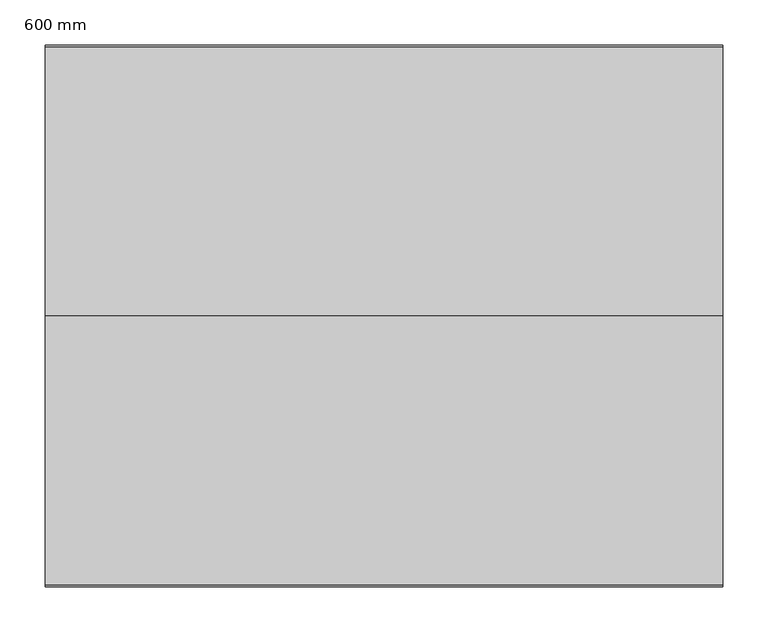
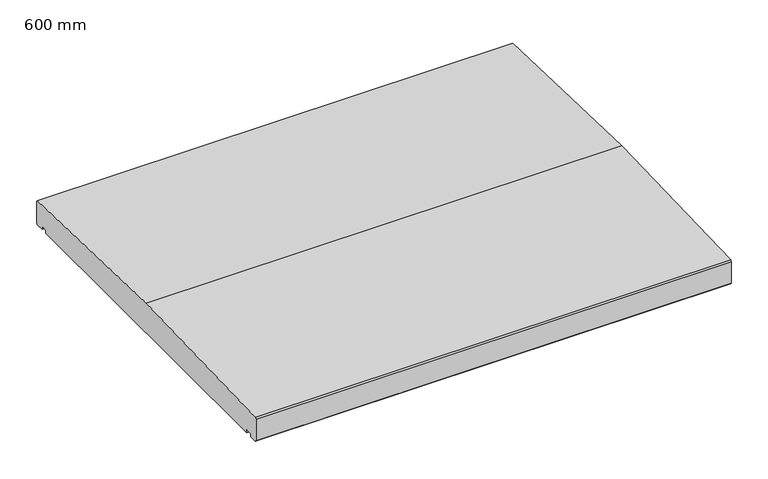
"""IFC4 building model written with IfcOpenShell, lengths in millimetres: proxy geometry, 400_35_NS_afdekker_tweezijdig_afwaterend : 600 mm."""

from ifc_helpers import new_model, si_unit, frame, origin, place, context, project, spatial, polyline, outline, extrude, source, transform, mapped, element, save


def proxy_600_mm_a40602a3(model_context):
    return source(origin(), model_context, "Body", "SweptSolid", [
        extrude(outline(polyline([(600.0, 2.0), (598.0, 0.0), (585.0, 0.0), (585.0, 5.0), (575.0, 5.0), (575.0, 0.0), (25.0, 0.0), (25.0, 5.0), (15.0, 5.0), (15.0, 0.0), (2.0, 0.0), (0.0, 2.0), (0.0, 38.0), (2.0, 40.0), (300.0, 50.0), (598.0, 40.0), (600.0, 38.0), (600.0, 2.0)])), frame((-375.0, 0.0, 0.0), z_axis=(1.0, 0.0, 0.0), x_axis=(0.0, 1.0, 0.0)), (0.0, 0.0, 1.0), 750.0),
    ])


if __name__ == "__main__":
    model = new_model("IFC4")
    model_context = context("Model", 3, world=origin())
    ifc_project = project(units=[si_unit("LENGTHUNIT", "METRE", prefix="MILLI")], contexts=[model_context])
    site = spatial("IfcSite", under=ifc_project)
    building = spatial("IfcBuilding", under=site)
    placement = place(None, origin())
    proxy_600_mm_shape = proxy_600_mm_a40602a3(model_context)
    element("IfcBuildingElementProxy", 1, Name="400_35_NS_afdekker_tweezijdig_afwaterend : 600 mm", ObjectType="400_35_NS_afdekker_tweezijdig_afwaterend : 600 mm", at=placement, inside=building, context=model_context, shape_type="MappedRepresentation", body=[
        mapped(proxy_600_mm_shape, transform((0.0, 0.0, 0.0), x_axis=(1.0, 0.0, 0.0), y_axis=(0.0, 1.0, 0.0), z_axis=(0.0, 0.0, 1.0))),
    ])
    save(model, "model.ifc")
